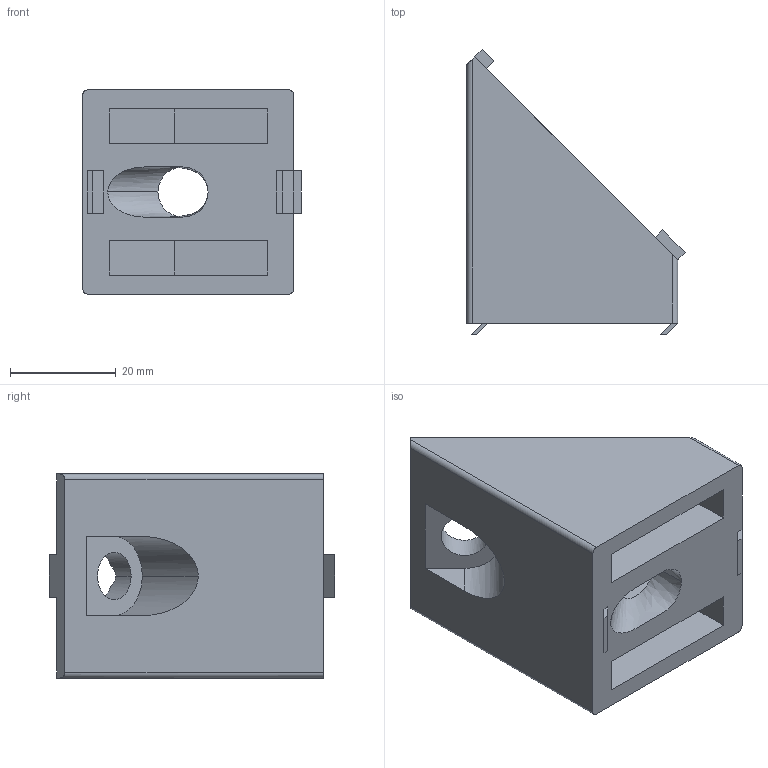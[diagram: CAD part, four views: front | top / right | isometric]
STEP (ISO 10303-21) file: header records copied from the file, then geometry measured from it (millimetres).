
FILE_DESCRIPTION (( 'STEP AP214' ), '1' );
FILE_NAME ('SNSD.30.50.25 Óãîëîâîé àëþìèíèåâûé ñîåäåíèòåëü 40õ40õ45ãðàä.(D00), ïàç10.STEP', '2014-11-28T11:37:44', ( 'XTreme.ws' ), ( 'XTreme.ws' ), 'SwSTEP 2.0', 'SolidWorks 2014', '' );
FILE_SCHEMA (( 'AUTOMOTIVE_DESIGN' ));
Length unit declared in the file: millimetre
Products named in the file (1): SNSD.30.50.25 Óãîëîâîé àëþìèíèåâûé ñîåäåíèòåëü 40õ40õ45ãðàä.(D00), ïàç10
Bounding box: 41.41 x 54.04 x 38.7 mm (x, y, z)
Volume: 30119.7 mm3; surface area: 14205.4 mm2
Topology: 1 solids, 1 shells, 63 faces, 166 edges, 110 vertices
Faces by surface type: plane 52, cylinder 9, bspline 2
Entity records: 2271 total; most frequent: CARTESIAN_POINT 694, ORIENTED_EDGE 332, DIRECTION 291, EDGE_CURVE 166, VECTOR 137, LINE 137, VERTEX_POINT 110, AXIS2_PLACEMENT_3D 77
